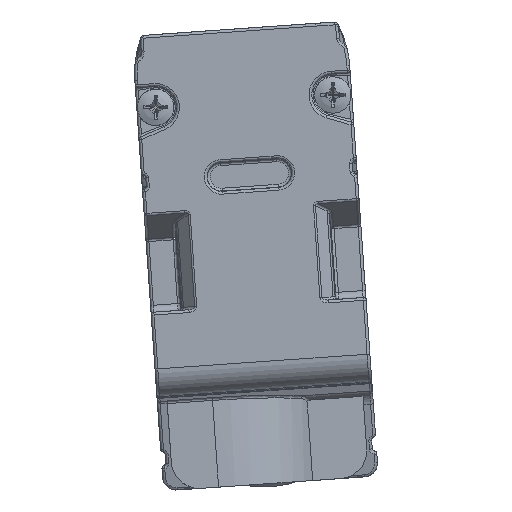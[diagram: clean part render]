
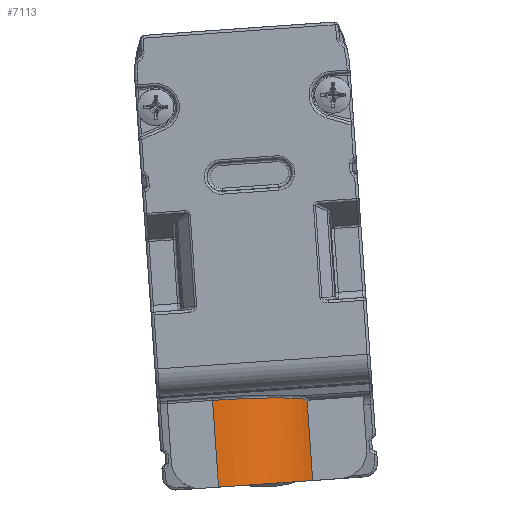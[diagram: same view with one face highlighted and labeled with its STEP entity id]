
A CAD part, front view. The second image highlights one B-rep face of the part: STEP entity #7113.
In plain terms, the highlighted cylindrical face has radius 7.5 mm (diameter 15 mm), a partial arc.
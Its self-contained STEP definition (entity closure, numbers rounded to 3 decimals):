
#289=ELLIPSE('',#24884,7.53,7.5);
#1934=LINE('',#50275,#3581);
#1935=LINE('',#50288,#3582);
#3581=VECTOR('',#31360,1.);
#3582=VECTOR('',#31363,1.);
#4782=FACE_OUTER_BOUND('',#8911,.T.);
#5211=B_SPLINE_CURVE_WITH_KNOTS('',3,(#50278,#50279,#50280,#50281,#50282,
#50283,#50284),.UNSPECIFIED.,.F.,.F.,(4,3,4),(0.,0.485,1.),.UNSPECIFIED.);
#7113=ADVANCED_FACE('',(#4782),#7575,.T.);
#7575=CYLINDRICAL_SURFACE('',#24886,7.5);
#8911=EDGE_LOOP('',(#14491,#14492,#14493,#14494,#14495));
#14491=ORIENTED_EDGE('',*,*,#20728,.T.);
#14492=ORIENTED_EDGE('',*,*,#20729,.T.);
#14493=ORIENTED_EDGE('',*,*,#20730,.T.);
#14494=ORIENTED_EDGE('',*,*,#20731,.T.);
#14495=ORIENTED_EDGE('',*,*,#20732,.F.);
#17219=VERTEX_POINT('',#50276);
#17220=VERTEX_POINT('',#50277);
#17221=VERTEX_POINT('',#50285);
#17222=VERTEX_POINT('',#50287);
#17223=VERTEX_POINT('',#50289);
#20728=EDGE_CURVE('',#17219,#17220,#1934,.T.);
#20729=EDGE_CURVE('',#17220,#17221,#5211,.T.);
#20730=EDGE_CURVE('',#17221,#17222,#289,.T.);
#20731=EDGE_CURVE('',#17222,#17223,#1935,.T.);
#20732=EDGE_CURVE('',#17219,#17223,#22296,.T.);
#22296=CIRCLE('',#24885,7.5);
#24884=AXIS2_PLACEMENT_3D('',#50286,#31361,#31362);
#24885=AXIS2_PLACEMENT_3D('',#50290,#31364,#31365);
#24886=AXIS2_PLACEMENT_3D('',#50291,#31366,#31367);
#31360=DIRECTION('',(-0.07,0.,0.998));
#31361=DIRECTION('',(0.069,-0.089,-0.994));
#31362=DIRECTION('',(0.006,0.996,-0.089));
#31363=DIRECTION('',(0.07,0.,-0.998));
#31364=DIRECTION('',(0.07,0.,-0.998));
#31365=DIRECTION('',(0.998,0.,0.07));
#31366=DIRECTION('',(0.07,0.,-0.998));
#31367=DIRECTION('',(0.,-1.,0.));
#50275=CARTESIAN_POINT('',(-40.701,-20.597,14.888));
#50276=CARTESIAN_POINT('',(-40.701,-20.597,14.888));
#50277=CARTESIAN_POINT('',(-41.088,-20.597,20.435));
#50278=CARTESIAN_POINT('',(-41.088,-20.597,20.435));
#50279=CARTESIAN_POINT('',(-41.139,-20.686,20.528));
#50280=CARTESIAN_POINT('',(-41.198,-20.793,20.603));
#50281=CARTESIAN_POINT('',(-41.263,-20.905,20.654));
#50282=CARTESIAN_POINT('',(-41.332,-21.024,20.708));
#50283=CARTESIAN_POINT('',(-41.408,-21.152,20.738));
#50284=CARTESIAN_POINT('',(-41.487,-21.278,20.743));
#50285=CARTESIAN_POINT('',(-41.487,-21.278,20.743));
#50286=CARTESIAN_POINT('',(-47.816,-17.318,19.944));
#50287=CARTESIAN_POINT('',(-47.863,-24.818,20.616));
#50288=CARTESIAN_POINT('',(-47.667,-24.818,17.815));
#50289=CARTESIAN_POINT('',(-47.43,-24.818,14.418));
#50290=CARTESIAN_POINT('',(-47.43,-17.318,14.418));
#50291=CARTESIAN_POINT('',(-52.434,-17.318,85.982));
